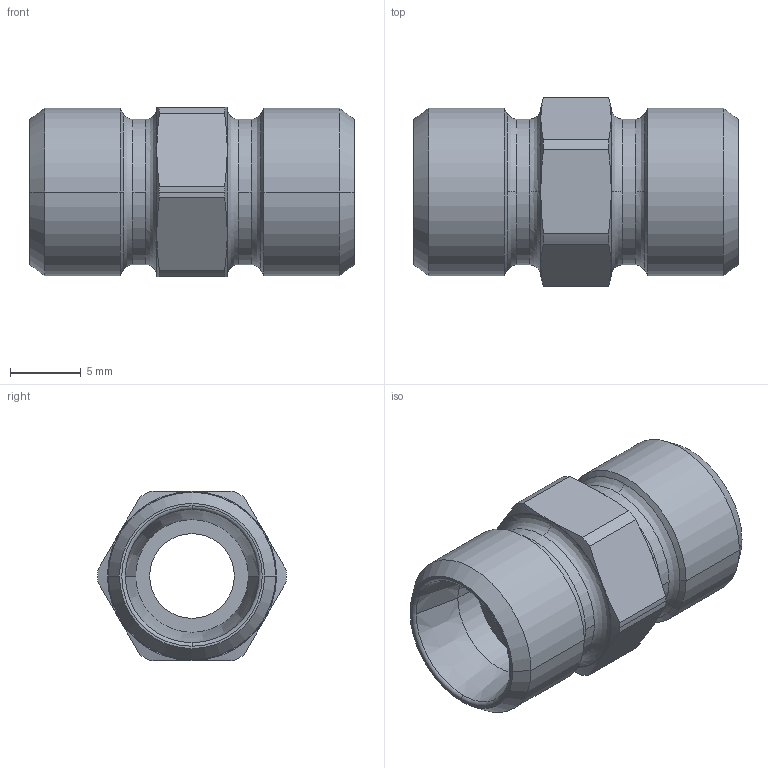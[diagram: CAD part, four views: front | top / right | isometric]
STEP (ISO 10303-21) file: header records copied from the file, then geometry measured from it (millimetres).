
FILE_DESCRIPTION((''),'2;1');
FILE_NAME('103503.stp','2007-10-31T11:34:59',(''),(''),'AutoCAD STEP 2000i','AutoCAD 2000i',', , ');
FILE_SCHEMA(('CONFIG_CONTROL_DESIGN'));
Length unit declared in the file: millimetre
Products named in the file (2): 103503.0; CHIAVE SMUSSATA#0
Assembly tree (1 placements, depth 2):
  103503.0
    CHIAVE SMUSSATA#0
Bounding box: 23 x 13.4 x 12 mm (x, y, z)
Volume: 1490.3 mm3; surface area: 1536.5 mm2
Topology: 1 solids, 1 shells, 70 faces, 172 edges, 108 vertices
Faces by surface type: cone 24, cylinder 22, plane 12, bspline 8, torus 4
Entity records: 2513 total; most frequent: CARTESIAN_POINT 752, DIRECTION 384, ORIENTED_EDGE 344, AXIS2_PLACEMENT_3D 172, EDGE_CURVE 172, VERTEX_POINT 108, CIRCLE 108, EDGE_LOOP 76
